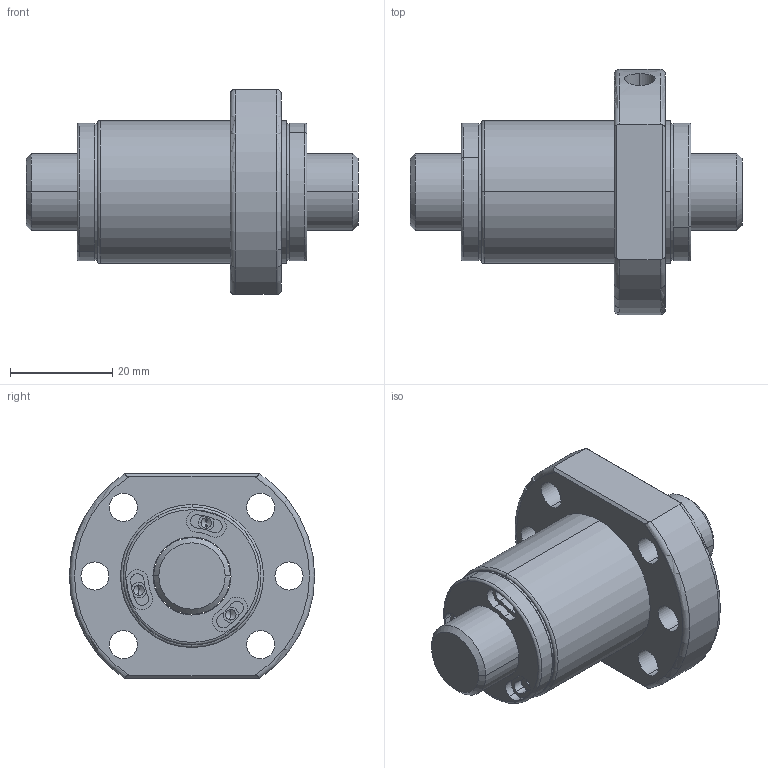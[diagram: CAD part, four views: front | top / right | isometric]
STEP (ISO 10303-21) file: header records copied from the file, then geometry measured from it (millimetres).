
FILE_DESCRIPTION (( 'STEP AP203' ), '1' );
FILE_NAME ('SFHR01616A1D-C.STEP', '2020-06-17T07:54:29', ( '' ), ( '' ), 'SwSTEP 2.0', 'SolidWorks 2013', '' );
FILE_SCHEMA (( 'CONFIG_CONTROL_DESIGN' ));
Length unit declared in the file: millimetre
Products named in the file (1): SFHR01616A1D-C
Bounding box: 65 x 48 x 40 mm (x, y, z)
Volume: 37711.2 mm3; surface area: 14627.1 mm2
Topology: 2 solids, 2 shells, 209 faces, 500 edges, 312 vertices
Faces by surface type: cylinder 126, plane 57, cone 16, torus 10
Entity records: 6413 total; most frequent: CARTESIAN_POINT 1258, DIRECTION 1204, ORIENTED_EDGE 976, AXIS2_PLACEMENT_3D 526, EDGE_CURVE 488, CIRCLE 316, VERTEX_POINT 312, EDGE_LOOP 254
